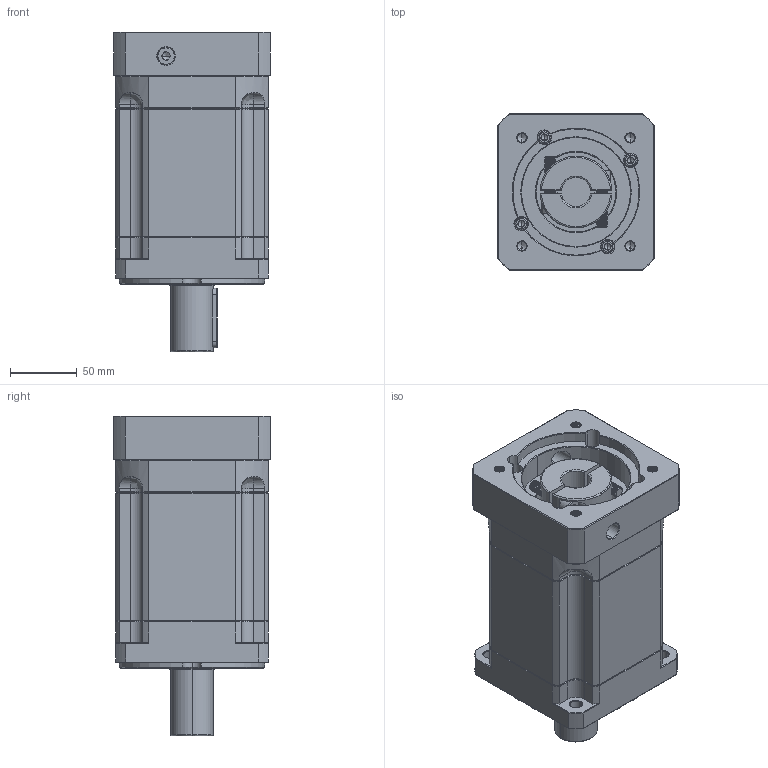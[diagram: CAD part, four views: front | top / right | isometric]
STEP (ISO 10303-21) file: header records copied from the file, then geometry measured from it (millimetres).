
FILE_DESCRIPTION (( 'STEP AP214' ), '1' );
FILE_NAME ('ZB115A-D32-L3-P2-22-95-115-M8.step', '2023-08-26T06:32:42', ( '' ), ( '' ), 'SwSTEP 2.0', 'SolidWorks 2016', '' );
FILE_SCHEMA (( 'AUTOMOTIVE_DESIGN' ));
Length unit declared in the file: millimetre
Products named in the file (1): ZB115A-D32-L3-P2-22-95-115-M8
Bounding box: 118 x 118 x 240.5 mm (x, y, z)
Volume: 2137533.3 mm3; surface area: 188299.7 mm2
Topology: 6 solids, 6 shells, 2407 faces, 6327 edges, 4016 vertices
Faces by surface type: plane 1144, cylinder 448, bspline 423, cone 372, torus 20
Entity records: 130004 total; most frequent: CARTESIAN_POINT 47768, ORIENTED_EDGE 12586, DIRECTION 9973, EDGE_CURVE 6293, VERTEX_POINT 4016, LINE 4001, VECTOR 4001, AXIS2_PLACEMENT_3D 2986
